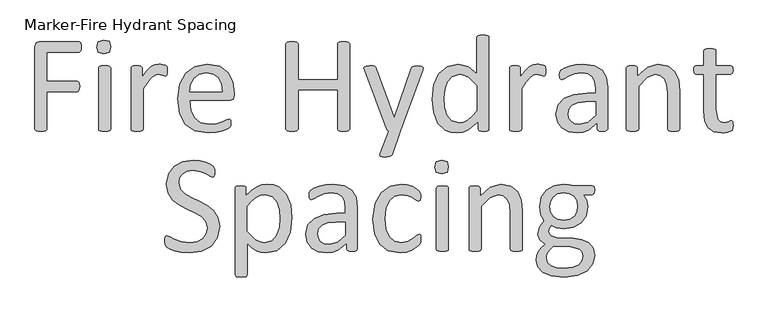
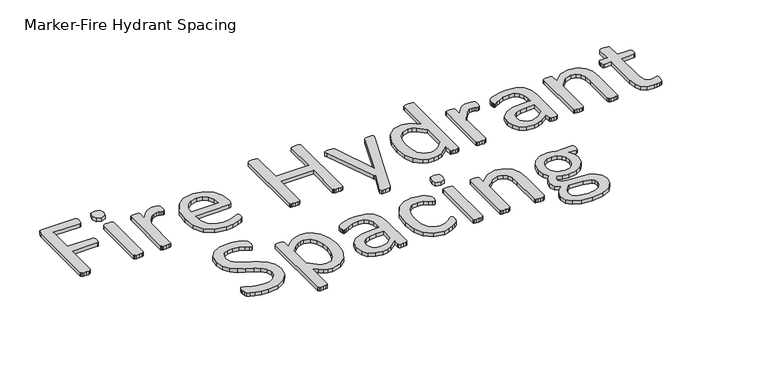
"""IFC4 building model written with IfcOpenShell, lengths in millimetres: proxy geometry, Marker-Fire Hydrant Spacing : FIre Hydrant Line."""

from ifc_helpers import new_model, si_unit, origin, origin_with_axes, place, context, project, spatial, polyline, outline, extrude, source, transform, mapped, element, save


def marker_fire_hydrant_spacing_5b3d75b8(model_context):
    return source(origin(), model_context, "Body", "SweptSolid", [
        extrude(outline(polyline([(3780.262454, 236.2082635), (3779.9608791, 230.9910177), (3778.9053669, 227.4324338), (3777.1562325, 225.4420395), (3775.0753656, 224.8087322), (3703.0592786, 224.8087322), (3703.0592786, 159.1860331), (3771.0945769, 159.1860331), (3773.1754437, 158.6130408), (3774.9245782, 156.7432764), (3775.9800903, 153.275165), (3776.2816653, 147.6658718), (3775.9800903, 142.4184685), (3774.9245782, 138.8598846), (3773.1754437, 136.7488603), (3771.0945769, 136.0250805), (3703.0592786, 136.0250805), (3703.0592786, 52.1872573), (3702.4259713, 50.1063905), (3700.2244746, 48.5683585), (3696.1532134, 47.6334763), (3689.548723, 47.2414289), (3683.09502, 47.6334763), (3678.8729714, 48.5683585), (3676.6714746, 50.1063905), (3676.0381673, 52.1872573), (3676.0381673, 237.1733032), (3679.1745463, 245.587243), (3685.8695091, 247.9696848), (3775.0753656, 247.9696848), (3777.0959175, 247.3363775), (3778.8752094, 245.2856681), (3779.9608791, 241.5461393), (3780.262454, 236.2082635)])), origin_with_axes(), (0.0, 0.0, 1.0), 10.0),
        extrude(outline(polyline([(3845.885153, 236.5701534), (3842.5678291, 224.2357399), (3830.263573, 220.9485734), (3818.2608918, 224.1452674), (3815.0038829, 236.2082635), (3818.3212068, 248.5426771), (3830.6254629, 251.8298435), (3842.6281441, 248.6331496), (3845.885153, 236.5701534)])), origin_with_axes(), (0.0, 0.0, 1.0), 10.0),
        extrude(outline(polyline([(3845.885153, 51.9459974), (3845.2216882, 49.8952881), (3843.0805064, 48.4477285), (3839.0092452, 47.5430038), (3832.3142824, 47.2414289), (3825.7399495, 47.5430038), (3821.5782158, 48.4477285), (3819.437034, 49.8952881), (3818.8640416, 51.9459974), (3818.8640416, 189.2228935), (3819.437034, 191.1831304), (3821.5782158, 192.7211624), (3825.7399495, 193.6258871), (3832.3142824, 193.927462), (3839.0092452, 193.6258871), (3843.0805064, 192.7211624), (3845.2216882, 191.1831304), (3845.885153, 189.2228935), (3845.885153, 51.9459974)])), origin_with_axes(), (0.0, 0.0, 1.0), 10.0),
        extrude(outline(polyline([(3973.2703923, 182.3469857), (3973.1196049, 176.8583225), (3972.5164551, 173.2997386), (3971.4006279, 171.2791868), (3969.5308635, 170.5855645), (3966.6055869, 171.2791868), (3962.7152707, 172.6664313), (3957.8599147, 173.9933609), (3952.0395191, 174.6266682), (3944.6810914, 172.9680062), (3937.1115614, 167.539658), (3928.8182515, 157.5273712), (3919.2281696, 142.2375235), (3919.2281696, 51.9459974), (3918.5647048, 49.8952881), (3916.423523, 48.4477285), (3912.3522618, 47.5430038), (3905.6572989, 47.2414289), (3899.082966, 47.5430038), (3894.9212323, 48.4477285), (3892.7800505, 49.8952881), (3892.2070582, 51.9459974), (3892.2070582, 189.2228935), (3892.6895781, 191.2736029), (3894.6498149, 192.7814774), (3898.4195012, 193.6862021), (3904.5113143, 193.927462), (3910.4824974, 193.6862021), (3914.1617112, 192.7814774), (3916.0616331, 191.2736029), (3916.6346254, 189.2228935), (3916.6346254, 169.1983199), (3927.0691171, 183.4929704), (3936.3274666, 192.2084851), (3944.9525089, 196.5813212), (3953.6077086, 197.7876208), (3958.0107022, 197.5765184), (3963.1977905, 196.7622661), (3968.083304, 195.4051791), (3971.159368, 193.927462), (3972.3656676, 192.5402175), (3972.9085024, 190.8212405), (3973.2100773, 187.775334), (3973.2703923, 182.3469857)])), origin_with_axes(), (0.0, 0.0, 1.0), 10.0),
        extrude(outline(polyline([(4123.8165842, 127.7619282), (4120.8309927, 119.2575159), (4113.9852424, 116.7242867), (4023.4524563, 116.7242867), (4025.7142681, 94.4077438), (4033.2234832, 77.3989193), (4046.9149838, 66.4819078), (4067.5427072, 62.682064), (4084.6721617, 64.4613559), (4097.7001976, 68.4723021), (4106.7172872, 72.4832483), (4112.055163, 74.2625403), (4113.9249274, 73.7498629), (4115.2216995, 72.2419884), (4115.8851642, 69.4373418), (4116.0962667, 65.0343482), (4115.9454792, 61.8074967), (4115.5534319, 59.36474), (4114.7994946, 57.4045032), (4113.4424075, 55.7458412), (4108.5267366, 52.8205646), (4097.9414575, 48.6588309), (4082.8627123, 45.0097746), (4064.5872731, 43.3812701), (4035.1234051, 48.2064686), (4013.8623743, 62.561434), (4000.8343385, 86.4763239), (3996.4313449, 119.8606657), (4001.0454409, 152.4307553), (4014.3448942, 176.9186375), (4035.3345075, 192.38943), (4062.8984537, 197.7876208), (4090.6433448, 192.570375), (4109.4917763, 178.5169845), (4120.3484728, 157.7987886), (4123.8165842, 132.4061817), (4123.8165842, 127.7619282)]), holes=[polyline([(4096.7954728, 136.0250805), (4094.8427753, 153.7350668), (4088.1402731, 167.1777681), (4076.8538323, 175.6595622), (4061.1493192, 178.486827), (4045.0753769, 174.9885581), (4033.5250581, 165.6698936), (4026.3174179, 152.1291804), (4023.4524563, 136.0250805), (4096.7954728, 136.0250805)])]), origin_with_axes(), (0.0, 0.0, 1.0), 10.0),
        extrude(outline(polyline([(4382.4472216, 52.1872573), (4381.8139143, 50.015918), (4379.6124175, 48.5683585), (4375.4205263, 47.6334763), (4368.9969809, 47.2414289), (4362.362333, 47.6334763), (4358.2609143, 48.538201), (4356.0594175, 49.9857605), (4355.4261102, 52.1269423), (4355.4261102, 139.8852393), (4266.6424586, 139.8852393), (4266.6424586, 52.1269423), (4266.0091513, 49.9857605), (4263.8076545, 48.538201), (4259.6459208, 47.6334763), (4253.1319029, 47.2414289), (4246.6782, 47.6334763), (4242.4561513, 48.5683585), (4240.2546545, 50.015918), (4239.6213472, 52.1872573), (4239.6213472, 243.0238563), (4240.2546545, 245.1951957), (4242.4561513, 246.6427552), (4246.6782, 247.5776374), (4253.1319029, 247.9696848), (4259.6459208, 247.5776374), (4263.8076545, 246.6427552), (4266.0091513, 245.1951957), (4266.6424586, 243.0238563), (4266.6424586, 163.0461919), (4355.4261102, 163.0461919), (4355.4261102, 243.0238563), (4356.0594175, 245.1951957), (4358.2609143, 246.6427552), (4362.362333, 247.5776374), (4368.9969809, 247.9696848), (4375.4205263, 247.5776374), (4379.6124175, 246.6427552), (4381.8139143, 245.1951957), (4382.4472216, 243.0238563), (4382.4472216, 52.1872573)])), origin_with_axes(), (0.0, 0.0, 1.0), 10.0),
        extrude(outline(polyline([(4496.5028501, 47.2414289), (4477.9258361, -5.4135493), (4473.2212676, -9.3038655), (4461.7011063, -10.6609526), (4455.2474033, -10.2689052), (4451.4475595, -8.9118182), (4449.9698425, -6.3484315), (4450.7237798, -2.5184302), (4469.9039436, 47.2414289), (4467.280242, 49.2318233), (4465.561265, 52.1269423), (4415.9823509, 184.0961202), (4414.7157363, 189.192736), (4415.9521934, 192.0878551), (4419.9631396, 193.5354147), (4427.3818822, 193.927462), (4434.6498374, 193.6862021), (4438.8417286, 192.8417924), (4441.1035403, 191.0926579), (4442.5209424, 187.9562789), (4482.2685147, 77.1576593), (4521.0510473, 188.5594287), (4523.3128591, 192.2989576), (4527.2333328, 193.5354147), (4534.8028629, 193.927462), (4541.9200306, 193.5354147), (4546.0214493, 192.0878551), (4547.3483789, 189.192736), (4546.3833392, 184.57864), (4496.5028501, 47.2414289)])), origin_with_axes(), (0.0, 0.0, 1.0), 10.0),
        extrude(outline(polyline([(4695.1200817, 52.0666274), (4694.5470894, 49.8651306), (4692.5868525, 48.3874135), (4688.9377962, 47.5430038), (4683.4189754, 47.2414289), (4677.6890523, 47.5430038), (4673.9495234, 48.3270986), (4671.8384991, 49.6841856), (4671.1750343, 51.7047375), (4671.1750343, 68.834192), (4648.768019, 50.1063905), (4636.607011, 45.0625502), (4623.3452546, 43.3812701), (4609.3823366, 44.8816053), (4597.6510728, 49.3826107), (4580.4311458, 65.6073405), (4570.7807489, 89.6730178), (4567.7348424, 118.774996), (4571.5346862, 151.4958731), (4582.7532726, 176.4059601), (4601.1493417, 192.2386426), (4626.5419486, 197.7876208), (4648.4664441, 192.38943), (4668.0989703, 176.5567476), (4668.0989703, 258.4041764), (4668.6719626, 260.5152008), (4670.8734594, 262.0833903), (4675.0351931, 263.0182725), (4681.4285811, 263.4103198), (4688.1235439, 263.0182725), (4692.1948051, 262.0833903), (4694.3963019, 260.5453582), (4695.1200817, 258.4644914), (4695.1200817, 52.0666274)]), holes=[polyline([(4668.0989703, 149.0531164), (4648.7378615, 168.0824928), (4639.1930158, 172.9906243), (4629.2561227, 174.6266682), (4613.2726528, 170.0427297), (4602.5969012, 157.949576), (4596.6257182, 140.9407515), (4594.7559538, 121.6701151), (4596.3241432, 101.2836516), (4601.782649, 83.6113623), (4612.0965107, 71.2166337), (4628.2307681, 66.5422227), (4637.70022, 67.8993098), (4647.049042, 72.3927759), (4657.0311714, 80.5352983), (4668.0989703, 92.8998693), (4668.0989703, 149.0531164)])]), origin_with_axes(), (0.0, 0.0, 1.0), 10.0),
        extrude(outline(polyline([(4822.505321, 182.3469857), (4822.3545335, 176.8583225), (4821.7513837, 173.2997386), (4820.6355566, 171.2791868), (4818.7657922, 170.5855645), (4815.8405156, 171.2791868), (4811.9501994, 172.6664313), (4807.0948434, 173.9933609), (4801.2744478, 174.6266682), (4793.9160201, 172.9680062), (4786.34649, 167.539658), (4778.0531802, 157.5273712), (4768.4630983, 142.2375235), (4768.4630983, 51.9459974), (4767.7996335, 49.8952881), (4765.6584516, 48.4477285), (4761.5871904, 47.5430038), (4754.8922276, 47.2414289), (4748.3178947, 47.5430038), (4744.156161, 48.4477285), (4742.0149792, 49.8952881), (4741.4419869, 51.9459974), (4741.4419869, 189.2228935), (4741.9245067, 191.2736029), (4743.8847436, 192.7814774), (4747.6544299, 193.6862021), (4753.746243, 193.927462), (4759.717426, 193.6862021), (4763.3966399, 192.7814774), (4765.2965618, 191.2736029), (4765.8695541, 189.2228935), (4765.8695541, 169.1983199), (4776.3040457, 183.4929704), (4785.5623953, 192.2084851), (4794.1874375, 196.5813212), (4802.8426373, 197.7876208), (4807.2456309, 197.5765184), (4812.4327192, 196.7622661), (4817.3182326, 195.4051791), (4820.3942967, 193.927462), (4821.6005963, 192.5402175), (4822.1434311, 190.8212405), (4822.445006, 187.775334), (4822.505321, 182.3469857)])), origin_with_axes(), (0.0, 0.0, 1.0), 10.0),
        extrude(outline(polyline([(4961.4710366, 51.8856824), (4960.144107, 49.0810358), (4956.5252082, 47.6937913), (4949.7699303, 47.2414289), (4942.92418, 47.6937913), (4939.2148087, 49.0810358), (4938.0688241, 51.8856824), (4938.0688241, 65.758128), (4917.7426756, 49.7143431), (4906.1923567, 44.9645384), (4893.9785731, 43.3812701), (4874.044472, 46.2462317), (4858.8752544, 54.5395416), (4849.134385, 67.8691523), (4845.6662736, 85.8430166), (4850.4613146, 106.289795), (4864.2131302, 120.7050754), (4886.1376257, 129.2999602), (4915.3300763, 132.1649218), (4934.4499252, 132.1649218), (4934.4499252, 143.6850831), (4932.7611058, 158.7638283), (4927.3327575, 169.6808398), (4917.6522031, 176.2551727), (4903.0258203, 178.486827), (4886.2884131, 176.0742277), (4873.3206922, 170.7665094), (4864.0020277, 165.4587911), (4858.4530495, 163.0461919), (4856.2817102, 163.6794992), (4854.6833632, 165.6095786), (4853.688166, 168.9269025), (4853.3865911, 173.3600536), (4853.9294259, 179.6931266), (4856.5832851, 184.1262777), (4863.8210828, 188.6499012), (4875.642819, 193.1132098), (4890.2692018, 196.4606912), (4906.2828292, 197.7876208), (4931.916696, 194.3798244), (4949.0159931, 184.4278526), (4958.5156025, 168.1729653), (4961.4710366, 145.4945325), (4961.4710366, 51.8856824)]), holes=[polyline([(4934.4499252, 112.8641279), (4912.9777921, 112.8641279), (4895.0642428, 111.084836), (4882.4282543, 105.8374327), (4875.0396692, 97.5139653), (4872.687385, 86.3255364), (4874.3762044, 76.584667), (4879.4426628, 69.0754519), (4887.5550277, 64.280411), (4898.3815667, 62.682064), (4916.7173209, 67.7786798), (4934.4499252, 83.3701024), (4934.4499252, 112.8641279)])]), origin_with_axes(), (0.0, 0.0, 1.0), 10.0),
        extrude(outline(polyline([(5123.5977048, 52.0063124), (5122.93424, 49.955603), (5120.7930582, 48.477886), (5116.721797, 47.5430038), (5110.1474641, 47.2414289), (5103.4525012, 47.5430038), (5099.38124, 48.4477285), (5097.2400582, 49.8952881), (5096.5765934, 52.0063124), (5096.5765934, 132.5871266), (5094.7973015, 151.5260306), (5089.6403706, 163.9207591), (5080.8645409, 171.8823366), (5068.4094974, 174.6266682), (5050.1039008, 167.9015478), (5030.9538944, 148.1483917), (5030.9538944, 52.0063124), (5030.2904296, 49.8952881), (5028.1492478, 48.4477285), (5024.0779866, 47.5430038), (5017.3830237, 47.2414289), (5010.8086908, 47.5430038), (5006.6469572, 48.4477285), (5004.5057753, 49.8952881), (5003.932783, 51.9459974), (5003.932783, 189.2228935), (5004.4153029, 191.2736029), (5006.3755397, 192.7814774), (5010.145226, 193.6862021), (5016.2370391, 193.927462), (5022.2082222, 193.6862021), (5025.887436, 192.7814774), (5027.7873579, 191.2736029), (5028.3603502, 189.2228935), (5028.3603502, 171.0680843), (5051.4308303, 191.3640754), (5074.6219404, 197.7876208), (5097.6622631, 193.0830523), (5112.8013232, 180.5073788), (5121.0946331, 162.0811522), (5123.5977048, 136.6885453), (5123.5977048, 52.0063124)])), origin_with_axes(), (0.0, 0.0, 1.0), 10.0),
        extrude(outline(polyline([(5243.2626266, 61.1138745), (5242.6594767, 53.5745019), (5240.8198698, 49.4730832), (5237.140656, 47.000169), (5231.5615203, 45.1002471), (5224.8967149, 43.86379), (5217.8700197, 43.3812701), (5199.504108, 46.3065467), (5186.9887495, 55.1426914), (5179.8715818, 70.1309641), (5177.6399275, 91.5729397), (5177.6399275, 174.6266682), (5159.3041734, 174.6266682), (5155.775747, 176.88848), (5154.4789749, 184.2167501), (5154.8408648, 188.7102162), (5155.775747, 191.7561227), (5157.313779, 193.4449422), (5159.4248033, 193.927462), (5177.6399275, 193.927462), (5177.6399275, 227.5229063), (5178.2129198, 229.5434582), (5180.3541017, 231.2021201), (5184.5158353, 232.2274748), (5191.0901682, 232.5290497), (5197.7851311, 232.2274748), (5201.8563923, 231.2021201), (5203.9975741, 229.5434582), (5204.6610389, 227.5229063), (5204.6610389, 193.927462), (5238.4374281, 193.927462), (5240.4579799, 193.4449422), (5241.996012, 191.7561227), (5242.9610516, 188.7102162), (5243.2626266, 184.2167501), (5241.935697, 176.88848), (5238.4374281, 174.6266682), (5204.6610389, 174.6266682), (5204.6610389, 95.9759333), (5208.6719851, 73.9911229), (5214.2737389, 68.4044478), (5223.057108, 66.5422227), (5229.0584486, 67.235845), (5233.7328596, 68.6834045), (5237.261286, 70.1611216), (5239.8849876, 70.8849013), (5242.2975869, 69.0151369), (5242.9610516, 65.9993879), (5243.2626266, 61.1138745)])), origin_with_axes(), (0.0, 0.0, 1.0), 10.0),
        extrude(outline(polyline([(4091.0052347, -166.3294418), (4085.8181464, -191.6617337), (4071.3727085, -210.5101651), (4049.6291579, -222.1811139), (4022.7286765, -226.1015877), (4004.0310325, -224.5937131), (3988.6507124, -220.8843418), (3977.311496, -216.3305608), (3970.9482656, -212.3196146), (3968.3245639, -207.6753611), (3967.4801542, -199.7439411), (3967.7817291, -193.8632305), (3968.7166113, -190.0935442), (3970.2848008, -188.0729923), (3972.4862976, -187.5), (3978.6685831, -189.9125992), (3988.9522873, -195.1600026), (4004.06119, -200.4677209), (4024.477811, -202.9406351), (4040.5517533, -200.5883508), (4053.0671118, -193.9537029), (4061.1493192, -183.4588963), (4063.9841233, -169.2848758), (4060.0033346, -154.5680205), (4049.5386854, -143.8621114), (4034.7313577, -135.4180141), (4017.6622181, -127.5770666), (4000.6835511, -118.740922), (3985.9365383, -107.3413906), (3975.3814166, -91.9007555), (3971.3403129, -70.7301973), (3975.954409, -48.081922), (3988.7713424, -31.4349874), (4008.3133961, -21.1814406), (4032.8012783, -17.6530143), (4046.3419915, -18.9497864), (4059.1589249, -22.3877403), (4069.8949914, -27.1827812), (4076.077277, -31.4651449), (4078.0073564, -33.9682166), (4078.7914511, -36.1998708), (4079.2739709, -39.4870373), (4079.4247584, -44.4328657), (4079.1834985, -49.5596391), (4078.4898762, -53.2991679), (4077.1629466, -55.5308222), (4075.2027097, -56.2546019), (4069.7743615, -53.9023177), (4060.7271144, -48.6247569), (4048.0609684, -43.2567236), (4031.6552937, -40.8139669), (4016.9082809, -43.0154637), (4006.5341042, -48.8660168), (4000.4121336, -57.551374), (3998.3614243, -68.1969681), (4002.281898, -82.7328785), (4012.7465472, -93.52926), (4027.61419, -102.1543023), (4044.592857, -110.0555647), (4061.6016816, -118.8313944), (4076.4693243, -130.1102958), (4086.9942885, -145.4303009), (4091.0052347, -166.3294418)])), origin_with_axes(), (0.0, 0.0, 1.0), 10.0),
        extrude(outline(polyline([(4253.1319029, -146.787388), (4249.2717441, -179.8701549), (4237.9325278, -204.780242), (4219.3856712, -220.5526094), (4194.0835368, -226.1015877), (4182.8951078, -224.8651306), (4172.8225061, -220.9446568), (4163.0514792, -214.2195365), (4152.767775, -204.6897695), (4152.767775, -275.137667), (4152.1043102, -277.3391638), (4149.9631284, -278.9073533), (4145.8918672, -279.8422355), (4139.1969043, -280.1438104), (4132.6225714, -279.8422355), (4128.4608377, -278.9073533), (4126.3196559, -277.3391638), (4125.7466636, -275.197982), (4125.7466636, -80.3805942), (4126.2291834, -78.1187824), (4128.1894203, -76.6410654), (4131.9591066, -75.7966557), (4137.5683998, -75.5553958), (4143.2078505, -75.7664982), (4146.8870643, -76.5505929), (4148.9377737, -77.9378375), (4149.510766, -80.0790193), (4149.510766, -97.6306787), (4161.4832897, -86.2311474), (4173.0939235, -78.1790974), (4185.0966046, -73.3237415), (4198.0643255, -71.695237), (4211.8161411, -73.1804934), (4223.3966174, -77.6362626), (4240.4657569, -93.8609924), (4250.0859964, -117.8060398), (4253.1319029, -146.787388)]), holes=[polyline([(4226.1107915, -149.7428221), (4224.542602, -129.2960436), (4219.1444113, -111.7443842), (4208.860707, -99.4702856), (4192.8169222, -94.8561896), (4183.3474702, -96.2735916), (4173.9081757, -100.7972152), (4163.8657314, -108.9397376), (4152.767775, -121.3344661), (4152.767775, -177.2464533), (4172.0987263, -196.3361447), (4181.4701664, -201.2895125), (4191.3090477, -202.9406351), (4207.2925175, -198.326539), (4218.0888991, -186.0524405), (4224.1505547, -168.8928284), (4226.1107915, -149.7428221)])]), origin_with_axes(), (0.0, 0.0, 1.0), 10.0),
        extrude(outline(polyline([(4399.817936, -217.5971754), (4398.4910065, -220.401822), (4394.8721076, -221.7890665), (4388.1168298, -222.2414289), (4381.2710795, -221.7890665), (4377.5617081, -220.401822), (4376.4157235, -217.5971754), (4376.4157235, -203.7247298), (4356.089575, -219.7685147), (4344.5392562, -224.5183194), (4332.3254726, -226.1015877), (4312.3913715, -223.2366261), (4297.2221538, -214.9433162), (4287.4812844, -201.6137055), (4284.013173, -183.6398412), (4288.808214, -163.1930628), (4302.5600296, -148.7777824), (4324.4845251, -140.1828976), (4353.6769758, -137.317936), (4372.7968247, -137.317936), (4372.7968247, -125.7977747), (4371.1080052, -110.7190295), (4365.6796569, -99.802018), (4355.9991025, -93.2276851), (4341.3727197, -90.9960308), (4324.6353126, -93.4086301), (4311.6675917, -98.7163484), (4302.3489272, -104.0240667), (4296.7999489, -106.4366659), (4294.6286096, -105.8033586), (4293.0302627, -103.8732792), (4292.0350655, -100.5559553), (4291.7334906, -96.1228042), (4292.2763254, -89.7897312), (4294.9301845, -85.3565801), (4302.1679822, -80.8329566), (4313.9897185, -76.369648), (4328.6161013, -73.0221666), (4344.6297287, -71.695237), (4370.2635955, -75.1030334), (4387.3628925, -85.0550052), (4396.862502, -101.3098925), (4399.817936, -123.9883253), (4399.817936, -217.5971754)]), holes=[polyline([(4372.7968247, -156.6187299), (4351.3246915, -156.6187299), (4333.4111423, -158.3980218), (4320.7751538, -163.6454251), (4313.3865686, -171.9688925), (4311.0342844, -183.1573214), (4312.7231039, -192.8981908), (4317.7895622, -200.4074059), (4325.9019271, -205.2024468), (4336.7284662, -206.8007938), (4355.0642203, -201.704178), (4372.7968247, -186.1127554), (4372.7968247, -156.6187299)])]), origin_with_axes(), (0.0, 0.0, 1.0), 10.0),
        extrude(outline(polyline([(4542.6438104, -194.4965378), (4542.4930229, -198.7185864), (4541.9501881, -201.7343355), (4541.0454634, -204.1770922), (4538.6328642, -207.795991), (4532.1490038, -213.6767016), (4521.8652995, -219.9193021), (4509.470571, -224.3826107), (4495.5981254, -226.1015877), (4469.4214238, -221.0954443), (4450.3317324, -206.4690614), (4438.6004686, -182.885904), (4434.5593649, -150.6475468), (4439.5051934, -114.9109207), (4453.0459065, -90.453196), (4473.2815826, -76.309333), (4498.4932445, -71.695237), (4511.2197054, -73.0523241), (4522.5589218, -76.6109079), (4531.7871139, -81.6773663), (4537.637667, -86.5930372), (4540.1407387, -89.8198887), (4541.2867233, -92.3832754), (4541.8898731, -95.5498119), (4542.0406606, -99.982963), (4540.6835735, -108.0048554), (4537.3964071, -110.2968247), (4532.1791612, -107.8842254), (4524.7302611, -102.5765071), (4513.7830921, -97.2687888), (4498.6741894, -94.8561896), (4482.8038101, -98.3544585), (4471.1404007, -108.8492651), (4463.9704574, -126.0088771), (4461.5804763, -149.5015621), (4464.0533905, -172.8434597), (4471.3515032, -189.6110243), (4483.2033969, -199.6534686), (4499.2773393, -202.9406351), (4514.3259269, -199.8947285), (4525.5445134, -193.1997657), (4533.5362483, -186.5952753), (4538.6027067, -183.6398412), (4540.3819986, -184.2128336), (4541.6787707, -186.1429129), (4542.432708, -189.5808668), (4542.6438104, -194.4965378)])), origin_with_axes(), (0.0, 0.0, 1.0), 10.0),
        extrude(outline(polyline([(4604.4063507, -217.5368604), (4603.7428859, -219.5875697), (4601.6017041, -221.0351293), (4597.5304429, -221.939854), (4590.83548, -222.2414289), (4584.2611471, -221.939854), (4580.0994134, -221.0351293), (4577.9582316, -219.5875697), (4577.3852393, -217.5368604), (4577.3852393, -80.2599643), (4577.9582316, -78.2997274), (4580.0994134, -76.7616954), (4584.2611471, -75.8569707), (4590.83548, -75.5553958), (4597.5304429, -75.8569707), (4601.6017041, -76.7616954), (4603.7428859, -78.2997274), (4604.4063507, -80.2599643), (4604.4063507, -217.5368604)])), origin_with_axes(), (0.0, 0.0, 1.0), 10.0),
        extrude(outline(polyline([(4604.4063507, -32.9127044), (4601.0890267, -45.2471179), (4588.7847707, -48.5342844), (4576.7820895, -45.3375904), (4573.5250805, -33.2745943), (4576.8424045, -20.9401807), (4589.1466605, -17.6530143), (4601.1493417, -20.8497082), (4604.4063507, -32.9127044)])), origin_with_axes(), (0.0, 0.0, 1.0), 10.0),
        extrude(outline(polyline([(4770.3931776, -217.4765454), (4769.7297128, -219.5272548), (4767.588531, -221.0049718), (4763.5172698, -221.939854), (4756.9429369, -222.2414289), (4750.2479741, -221.939854), (4746.1767129, -221.0351293), (4744.0355311, -219.5875697), (4743.3720663, -217.4765454), (4743.3720663, -136.8957312), (4741.5927743, -117.9568272), (4736.4358435, -105.5620987), (4727.6600138, -97.6005212), (4715.2049703, -94.8561896), (4696.8993736, -101.58131), (4677.7493672, -121.3344661), (4677.7493672, -217.4765454), (4677.0859024, -219.5875697), (4674.9447206, -221.0351293), (4670.8734594, -221.939854), (4664.1784966, -222.2414289), (4657.6041637, -221.939854), (4653.44243, -221.0351293), (4651.3012482, -219.5875697), (4650.7282559, -217.5368604), (4650.7282559, -80.2599643), (4651.2107757, -78.2092549), (4653.1710126, -76.7013804), (4656.9406989, -75.7966557), (4663.0325119, -75.5553958), (4669.003695, -75.7966557), (4672.6829089, -76.7013804), (4674.5828307, -78.2092549), (4675.1558231, -80.2599643), (4675.1558231, -98.4147735), (4698.2263032, -78.1187824), (4721.4174133, -71.695237), (4744.4577359, -76.3998055), (4759.5967961, -88.975479), (4767.8901059, -107.4017056), (4770.3931776, -132.7943125), (4770.3931776, -217.4765454)])), origin_with_axes(), (0.0, 0.0, 1.0), 10.0),
        extrude(outline(polyline([(4932.5198458, -85.2661077), (4931.0421288, -92.5943778), (4927.2724425, -94.8561896), (4907.3081839, -94.8561896), (4914.9078715, -107.3413906), (4917.0792108, -121.5154111), (4913.219052, -142.9875442), (4902.151253, -158.7900692), (4885.0217985, -168.6515685), (4863.036988, -172.0593649), (4846.8424157, -169.7975532), (4834.990522, -164.0977875), (4830.1653235, -170.400703), (4828.2955591, -178.5733829), (4833.4223325, -187.5), (4847.0535181, -191.3601588), (4884.0869163, -192.9283483), (4903.5083401, -195.8536248), (4918.7981877, -203.302525), (4928.900947, -215.1544187), (4932.5198458, -231.469621), (4928.4787421, -250.1371075), (4916.0840136, -265.6983725), (4894.7928254, -276.2836516), (4864.2432876, -280.1438104), (4835.3222544, -277.2486913), (4815.7802006, -269.3474288), (4804.7124017, -257.3749052), (4801.2744478, -242.3263175), (4802.5109049, -232.2838732), (4806.3107487, -223.0556811), (4812.6438216, -214.7020563), (4821.3593364, -206.8007938), (4809.1153953, -196.8789795), (4805.1346065, -183.9414161), (4809.2360252, -166.7818041), (4819.368942, -153.2410909), (4811.7692544, -140.2733701), (4808.9947653, -122.7217107), (4813.0057115, -101.279735), (4824.163983, -85.2359502), (4841.2934375, -75.1935059), (4863.036988, -71.695237), (4874.8587243, -72.7205917), (4885.172586, -75.5553958), (4927.2724425, -75.5553958), (4931.1929163, -77.9378375), (4932.5198458, -85.2661077)]), holes=[polyline([(4893.9182582, -121.696356), (4891.8826276, -108.8115683), (4885.7757358, -99.1083957), (4875.9142364, -93.0241221), (4862.6147832, -90.9960308), (4849.1645425, -93.52926), (4839.6347755, -100.4654828), (4833.9953248, -110.6285571), (4832.1557179, -122.6613957), (4834.1913485, -135.2069117), (4840.2982403, -144.7366787), (4850.0692672, -150.753098), (4863.097303, -152.7585711), (4876.8189611, -150.3158144), (4886.4392006, -143.530379), (4892.0786513, -133.5180922), (4893.9182582, -121.696356)]), polyline([(4905.4987345, -232.3140307), (4903.6289701, -223.8171578), (4898.0196769, -217.5067029), (4877.8141583, -211.9878822), (4841.14265, -210.6609526), (4832.8493402, -218.5019001), (4827.7225668, -225.6190678), (4825.1290226, -232.2838732), (4824.4354004, -239.0693085), (4827.0289445, -248.5010636), (4834.8095771, -255.3241958), (4847.2344631, -259.4633114), (4863.7607678, -260.8430166), (4883.5440815, -258.4605748), (4896.3911724, -252.0973444), (4903.3877101, -243.0199398), (4905.4987345, -232.3140307)])]), origin_with_axes(), (0.0, 0.0, 1.0), 10.0),
    ])


if __name__ == "__main__":
    model = new_model("IFC4")
    model_context = context("Model", 3, world=origin())
    ifc_project = project(units=[si_unit("LENGTHUNIT", "METRE", prefix="MILLI")], contexts=[model_context])
    site = spatial("IfcSite", under=ifc_project)
    building = spatial("IfcBuilding", under=site)
    placement = place(None, origin())
    marker_fire_hydrant_spacing_shape = marker_fire_hydrant_spacing_5b3d75b8(model_context)
    element("IfcBuildingElementProxy", 1, Name="Marker-Fire Hydrant Spacing : FIre Hydrant Line", ObjectType="Marker-Fire Hydrant Spacing : FIre Hydrant Line", at=placement, inside=building, context=model_context, shape_type="MappedRepresentation", body=[
        mapped(marker_fire_hydrant_spacing_shape, transform((0.0, 0.0, 0.0), x_axis=(1.0, 0.0, 0.0), y_axis=(0.0, 1.0, 0.0), z_axis=(0.0, 0.0, 1.0))),
    ])
    save(model, "model.ifc")
